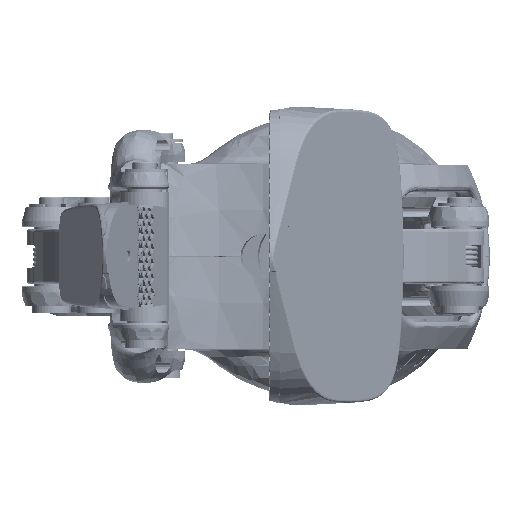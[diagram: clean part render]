
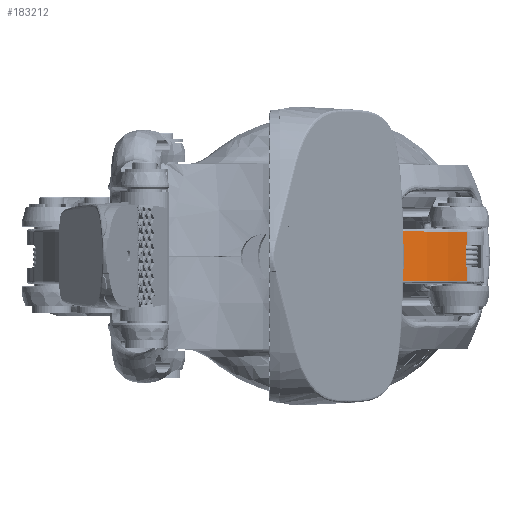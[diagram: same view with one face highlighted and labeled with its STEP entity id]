
A CAD part, top view. The second image highlights one B-rep face of the part: STEP entity #183212.
In plain terms, the highlighted cylindrical face has radius 49 mm (diameter 98 mm), a partial arc.
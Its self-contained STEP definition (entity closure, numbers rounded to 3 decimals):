
#6620 = VERTEX_POINT ( 'NONE', #23861 ) ;
#11755 = DIRECTION ( 'NONE',  ( 0., 1., 0. ) ) ;
#13401 = ORIENTED_EDGE ( 'NONE', *, *, #167561, .T. ) ;
#14885 = VERTEX_POINT ( 'NONE', #225565 ) ;
#15880 = ORIENTED_EDGE ( 'NONE', *, *, #205574, .T. ) ;
#16390 =( BOUNDED_CURVE ( )  B_SPLINE_CURVE ( 3, ( #142226, #202585, #118159, #244147 ),
 .UNSPECIFIED., .F., .T. ) 
 B_SPLINE_CURVE_WITH_KNOTS ( ( 4, 4 ),
 ( 1.381, 1.388 ),
 .UNSPECIFIED. ) 
 CURVE ( )  GEOMETRIC_REPRESENTATION_ITEM ( )  RATIONAL_B_SPLINE_CURVE ( ( 1., 1., 1., 1. ) ) 
 REPRESENTATION_ITEM ( '' )  );
#17357 = EDGE_CURVE ( 'NONE', #207376, #186571, #16390, .T. ) ;
#18629 = FACE_OUTER_BOUND ( 'NONE', #88240, .T. ) ;
#22818 = LINE ( 'NONE', #84649, #140330 ) ;
#23861 = CARTESIAN_POINT ( 'NONE',  ( -4.749, -2.206, -2.753 ) ) ;
#38026 = CARTESIAN_POINT ( 'NONE',  ( -4.749, -5., -2.753 ) ) ;
#40367 = DIRECTION ( 'NONE',  ( 0., 0., 1. ) ) ;
#41243 = LINE ( 'NONE', #64136, #200247 ) ;
#43006 = DIRECTION ( 'NONE',  ( 0., 1., 0. ) ) ;
#45202 = ORIENTED_EDGE ( 'NONE', *, *, #17357, .F. ) ;
#53191 = CARTESIAN_POINT ( 'NONE',  ( -4.749, 5., -21.247 ) ) ;
#62580 = CARTESIAN_POINT ( 'NONE',  ( -4.814, -2.2, -3.1 ) ) ;
#64136 = CARTESIAN_POINT ( 'NONE',  ( -4.749, -5.5, -21.247 ) ) ;
#65256 = DIRECTION ( 'NONE',  ( 0., 0., 1. ) ) ;
#76901 = ORIENTED_EDGE ( 'NONE', *, *, #103716, .T. ) ;
#76959 = VECTOR ( 'NONE', #202015, 1000. ) ;
#78546 = LINE ( 'NONE', #140357, #76959 ) ;
#83877 = CARTESIAN_POINT ( 'NONE',  ( 43.37, 5., -12. ) ) ;
#84649 = CARTESIAN_POINT ( 'NONE',  ( -4.83, -5.5, -3.183 ) ) ;
#84869 = VERTEX_POINT ( 'NONE', #175484 ) ;
#85107 = ORIENTED_EDGE ( 'NONE', *, *, #108683, .T. ) ;
#86655 = CIRCLE ( 'NONE', #172583, 49. ) ;
#88240 = EDGE_LOOP ( 'NONE', ( #249582, #85107, #191681, #13401, #76901, #218065, #45202, #15880, #180044, #157523 ) ) ;
#97489 = CARTESIAN_POINT ( 'NONE',  ( -4.749, -5., -21.247 ) ) ;
#101284 = EDGE_CURVE ( 'NONE', #14885, #6620, #119674, .T. ) ;
#102341 = B_SPLINE_CURVE_WITH_KNOTS ( 'NONE', 3,
 ( #197024, #117879, #261396, #238581 ),
 .UNSPECIFIED., .F., .F.,
 ( 4, 4 ),
 ( 0., 0. ),
 .UNSPECIFIED. ) ;
#103716 = EDGE_CURVE ( 'NONE', #170760, #122643, #22818, .T. ) ;
#105959 = CARTESIAN_POINT ( 'NONE',  ( -4.83, -2.066, -3.183 ) ) ;
#108683 = EDGE_CURVE ( 'NONE', #148014, #6620, #235946, .T. ) ;
#109541 = CARTESIAN_POINT ( 'NONE',  ( -4.749, -2.206, -2.753 ) ) ;
#117879 = CARTESIAN_POINT ( 'NONE',  ( -4.83, 2.066, -3.183 ) ) ;
#118159 = CARTESIAN_POINT ( 'NONE',  ( -4.793, 2.202, -2.984 ) ) ;
#119674 =( BOUNDED_CURVE ( )  B_SPLINE_CURVE ( 3, ( #62580, #167272, #228947, #109541 ),
 .UNSPECIFIED., .F., .T. ) 
 B_SPLINE_CURVE_WITH_KNOTS ( ( 4, 4 ),
 ( 1.753, 1.761 ),
 .UNSPECIFIED. ) 
 CURVE ( )  GEOMETRIC_REPRESENTATION_ITEM ( )  RATIONAL_B_SPLINE_CURVE ( ( 1., 1., 1., 1. ) ) 
 REPRESENTATION_ITEM ( '' )  );
#122643 = VERTEX_POINT ( 'NONE', #221203 ) ;
#122903 = DIRECTION ( 'NONE',  ( 0., 0., 1. ) ) ;
#126120 = CARTESIAN_POINT ( 'NONE',  ( -4.824, -2.143, -3.153 ) ) ;
#127454 = CARTESIAN_POINT ( 'NONE',  ( -4.83, -1.988, -3.183 ) ) ;
#140330 = VECTOR ( 'NONE', #43006, 1000. ) ;
#140357 = CARTESIAN_POINT ( 'NONE',  ( -4.749, -5.5, -2.753 ) ) ;
#142226 = CARTESIAN_POINT ( 'NONE',  ( -4.749, 2.206, -2.753 ) ) ;
#142484 = DIRECTION ( 'NONE',  ( 0., 1., 0. ) ) ;
#148014 = VERTEX_POINT ( 'NONE', #38026 ) ;
#149141 = VECTOR ( 'NONE', #11755, 1000. ) ;
#150013 = B_SPLINE_CURVE_WITH_KNOTS ( 'NONE', 3,
 ( #167707, #126120, #105959, #127454 ),
 .UNSPECIFIED., .F., .F.,
 ( 4, 4 ),
 ( 0., 0. ),
 .UNSPECIFIED. ) ;
#152954 = VERTEX_POINT ( 'NONE', #97489 ) ;
#157523 = ORIENTED_EDGE ( 'NONE', *, *, #237080, .T. ) ;
#161011 = CARTESIAN_POINT ( 'NONE',  ( 43.37, -5.5, -12. ) ) ;
#165815 = DIRECTION ( 'NONE',  ( 0., -1., 0. ) ) ;
#167272 = CARTESIAN_POINT ( 'NONE',  ( -4.793, -2.202, -2.984 ) ) ;
#167561 = EDGE_CURVE ( 'NONE', #14885, #170760, #150013, .T. ) ;
#167707 = CARTESIAN_POINT ( 'NONE',  ( -4.814, -2.2, -3.1 ) ) ;
#170760 = VERTEX_POINT ( 'NONE', #203421 ) ;
#171713 = VERTEX_POINT ( 'NONE', #53191 ) ;
#172583 = AXIS2_PLACEMENT_3D ( 'NONE', #184041, #142484, #40367 ) ;
#175484 = CARTESIAN_POINT ( 'NONE',  ( -4.749, 5., -2.753 ) ) ;
#178392 = CIRCLE ( 'NONE', #225464, 49. ) ;
#180044 = ORIENTED_EDGE ( 'NONE', *, *, #196182, .T. ) ;
#183212 = ADVANCED_FACE ( 'NONE', ( #18629 ), #221337, .T. ) ;
#184041 = CARTESIAN_POINT ( 'NONE',  ( 43.37, -5., -12. ) ) ;
#186571 = VERTEX_POINT ( 'NONE', #193964 ) ;
#191681 = ORIENTED_EDGE ( 'NONE', *, *, #101284, .F. ) ;
#193964 = CARTESIAN_POINT ( 'NONE',  ( -4.814, 2.2, -3.1 ) ) ;
#196182 = EDGE_CURVE ( 'NONE', #84869, #171713, #178392, .T. ) ;
#197024 = CARTESIAN_POINT ( 'NONE',  ( -4.83, 1.988, -3.183 ) ) ;
#200247 = VECTOR ( 'NONE', #225161, 1000. ) ;
#201261 = DIRECTION ( 'NONE',  ( 0., 1., 0. ) ) ;
#202015 = DIRECTION ( 'NONE',  ( 0., 1., 0. ) ) ;
#202585 = CARTESIAN_POINT ( 'NONE',  ( -4.771, 2.204, -2.869 ) ) ;
#203421 = CARTESIAN_POINT ( 'NONE',  ( -4.83, -1.988, -3.183 ) ) ;
#205574 = EDGE_CURVE ( 'NONE', #207376, #84869, #78546, .T. ) ;
#207376 = VERTEX_POINT ( 'NONE', #241688 ) ;
#215815 = CARTESIAN_POINT ( 'NONE',  ( -4.749, -5.5, -2.753 ) ) ;
#216640 = EDGE_CURVE ( 'NONE', #152954, #148014, #86655, .T. ) ;
#218065 = ORIENTED_EDGE ( 'NONE', *, *, #254050, .T. ) ;
#221203 = CARTESIAN_POINT ( 'NONE',  ( -4.83, 1.988, -3.183 ) ) ;
#221337 = CYLINDRICAL_SURFACE ( 'NONE', #249981, 49. ) ;
#225161 = DIRECTION ( 'NONE',  ( 0., -1., 0. ) ) ;
#225464 = AXIS2_PLACEMENT_3D ( 'NONE', #83877, #165815, #122903 ) ;
#225565 = CARTESIAN_POINT ( 'NONE',  ( -4.814, -2.2, -3.1 ) ) ;
#228947 = CARTESIAN_POINT ( 'NONE',  ( -4.771, -2.204, -2.869 ) ) ;
#235946 = LINE ( 'NONE', #215815, #149141 ) ;
#237080 = EDGE_CURVE ( 'NONE', #171713, #152954, #41243, .T. ) ;
#238581 = CARTESIAN_POINT ( 'NONE',  ( -4.814, 2.2, -3.1 ) ) ;
#241688 = CARTESIAN_POINT ( 'NONE',  ( -4.749, 2.206, -2.753 ) ) ;
#244147 = CARTESIAN_POINT ( 'NONE',  ( -4.814, 2.2, -3.1 ) ) ;
#249582 = ORIENTED_EDGE ( 'NONE', *, *, #216640, .T. ) ;
#249981 = AXIS2_PLACEMENT_3D ( 'NONE', #161011, #201261, #65256 ) ;
#254050 = EDGE_CURVE ( 'NONE', #122643, #186571, #102341, .T. ) ;
#261396 = CARTESIAN_POINT ( 'NONE',  ( -4.824, 2.143, -3.153 ) ) ;
